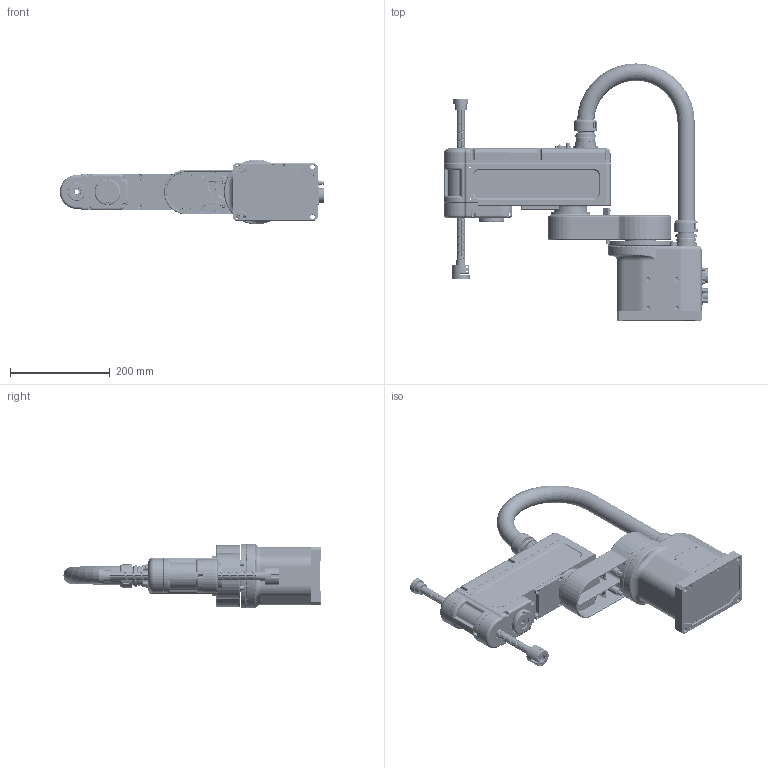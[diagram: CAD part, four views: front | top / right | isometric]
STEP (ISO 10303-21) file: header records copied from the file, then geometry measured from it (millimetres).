
FILE_DESCRIPTION (( 'STEP AP214' ), '1' );
FILE_NAME ('S350-00机器人.STEP', '2021-08-17T07:25:52', ( 'iCura' ), ( 'ICOS' ), 'SwSTEP 2.0', 'SolidWorks 2018', '' );
FILE_SCHEMA (( 'AUTOMOTIVE_DESIGN' ));
Length unit declared in the file: millimetre
Products named in the file (5): S400-3-00 J3粣; S350-00机器人; S350-1-00 JI粣; S350-2-00 J2粣_S400; S400-4-00 J4粣
Assembly tree (4 placements, depth 2):
  S350-00机器人
    S400-3-00 J3粣
    S400-4-00 J4粣
    S350-2-00 J2粣_S400
    S350-1-00 JI粣
Bounding box: 529.7 x 515.19 x 130 mm (x, y, z)
Surface area: 727261 mm2 (no closed solid volume)
Topology: 0 solids, 670 shells, 4052 faces, 12540 edges, 8539 vertices
Faces by surface type: cone 1452, cylinder 1340, plane 905, torus 182, bspline 165, sphere 8
Entity records: 206839 total; most frequent: CARTESIAN_POINT 50727, DIRECTION 25285, ORIENTED_EDGE 19942, EDGE_CURVE 12430, AXIS2_PLACEMENT_3D 10042, VERTEX_POINT 8537, CIRCLE 6148, VECTOR 5201
